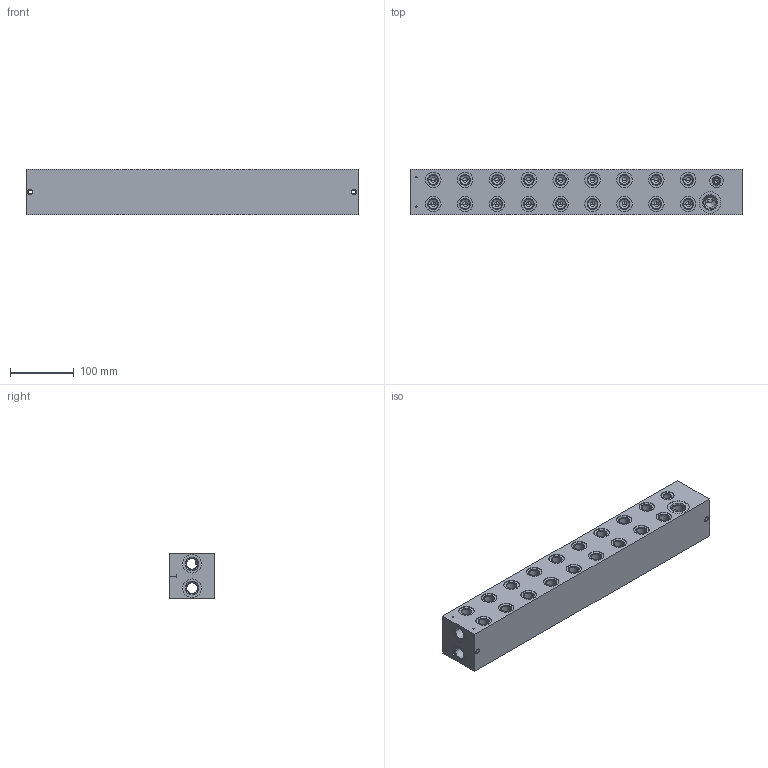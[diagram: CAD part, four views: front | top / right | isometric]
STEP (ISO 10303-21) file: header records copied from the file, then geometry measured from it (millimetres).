
FILE_DESCRIPTION((''),'2;1');
FILE_NAME('1000060222','2024-02-06T',('l.soukupova'),(''),'PRO/ENGINEER BY PARAMETRIC TECHNOLOGY CORPORATION, 2015440','PRO/ENGINEER BY PARAMETRIC TECHNOLOGY CORPORATION, 2015440','');
FILE_SCHEMA(('AUTOMOTIVE_DESIGN { 1 0 10303 214 1 1 1 1 }'));
Length unit declared in the file: millimetre
Products named in the file (1): 1000060222
Bounding box: 521 x 71 x 71 mm (x, y, z)
Volume: 2210897.6 mm3; surface area: 305240.9 mm2
Topology: 1 solids, 68 shells, 800 faces, 2711 edges, 2295 vertices
Faces by surface type: cylinder 460, cone 240, plane 100
Entity records: 45108 total; most frequent: CARTESIAN_POINT 13568, DIRECTION 5017, ORIENTED_EDGE 3574, PRESENTATION_STYLE_ASSIGNMENT 2800, STYLED_ITEM 2794, CURVE_STYLE 2726, EDGE_CURVE 1921, AXIS2_PLACEMENT_3D 1822
